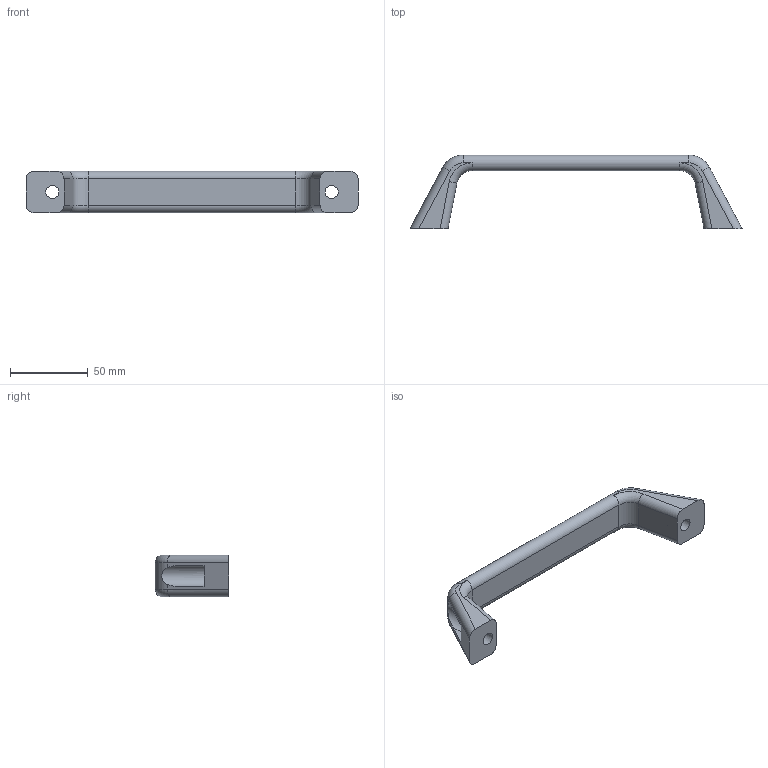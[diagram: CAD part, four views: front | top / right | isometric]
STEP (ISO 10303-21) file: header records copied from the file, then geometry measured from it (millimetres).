
FILE_DESCRIPTION( ( 'STEP AP203' ), '1' );
FILE_NAME( 'C:/Temp/Ganter_Step_05_03_2020/data/1_2/gn_728/gn_728_b/Cabinet U-handle GN 728-180-B-BL.stp', '2020-03-05T10:10:23', ( 'License CC BY-ND 4.0' ), ( 'CADENAS' ), ' ', 'PARTsolutions', ' ' );
FILE_SCHEMA( ( 'CONFIG_CONTROL_DESIGN' ) );
Length unit declared in the file: millimetre
Products named in the file (1): _Cabinet U-handle GN 728-180-B-BL
Bounding box: 214 x 47.5 x 27 mm (x, y, z)
Volume: 68334 mm3; surface area: 20432 mm2
Topology: 1 solids, 1 shells, 48 faces, 119 edges, 73 vertices
Faces by surface type: plane 21, cylinder 19, torus 8
Full cylindrical faces by diameter (mm): 8.4 x2, 13.5 x1, 16.8 x1
Entity records: 1506 total; most frequent: CARTESIAN_POINT 297, DIRECTION 264, ORIENTED_EDGE 228, EDGE_CURVE 114, AXIS2_PLACEMENT_3D 103, VERTEX_POINT 72, LINE 58, VECTOR 58
